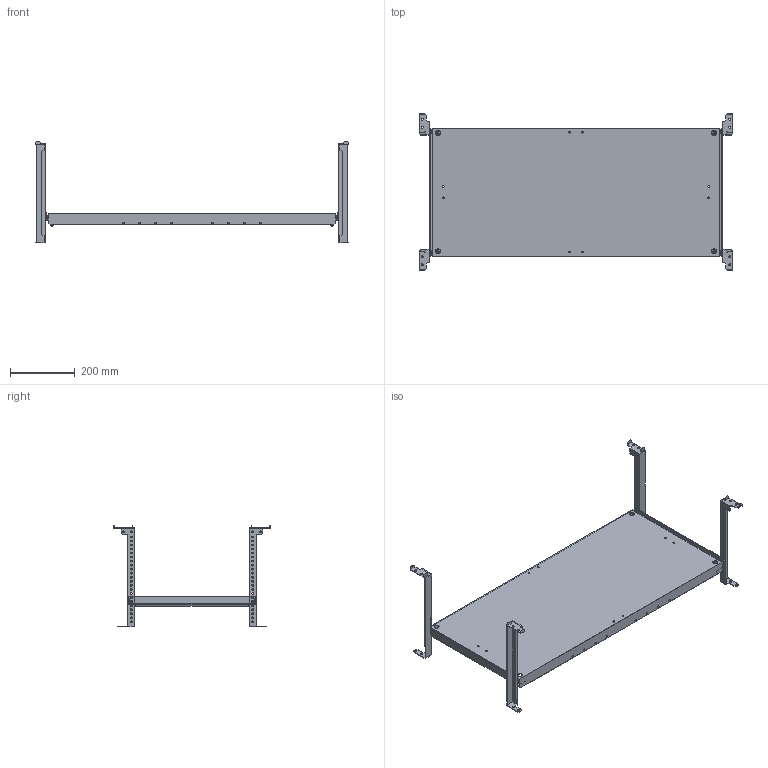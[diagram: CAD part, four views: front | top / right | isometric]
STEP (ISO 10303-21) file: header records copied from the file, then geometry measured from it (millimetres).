
FILE_DESCRIPTION (( 'STEP AP214' ), '1' );
FILE_NAME ('FO-00-MPU-040-100 Ïàíåëü ìîíòàæíàÿ óíèâåðñàëüíàÿ 400õ1000 ìì.STEP', '2025-07-16T08:32:49', ( '' ), ( '' ), 'SwSTEP 2.0', 'SolidWorks 2023', '' );
FILE_SCHEMA (( 'AUTOMOTIVE_DESIGN' ));
Length unit declared in the file: millimetre
Products named in the file (5): Траверса горизонтальнаяD; Панель монтажная универсальная 400х1000 мм; FO-00-MPU-040-100 Панель монтажная универсальная 400х1000 мм; Траверса горизонтальная; Винты DIN 912 4xM6x20 400x1000
Assembly tree (6 placements, depth 2):
  FO-00-MPU-040-100 Панель монтажная универсальная 400х1000 мм
    Винты DIN 912 4xM6x20 400x1000
    Панель монтажная универсальная 400х1000 мм
    Траверса горизонтальная  x2
    Траверса горизонтальнаяD  x2
Bounding box: 966 x 485 x 314.5 mm (x, y, z)
Volume: 1168841.2 mm3; surface area: 1189737.1 mm2
Topology: 9 solids, 13 shells, 994 faces, 2754 edges, 1834 vertices
Faces by surface type: cylinder 460, plane 442, cone 60, bspline 32
Entity records: 28669 total; most frequent: CARTESIAN_POINT 8365, DIRECTION 4180, ORIENTED_EDGE 4176, EDGE_CURVE 2088, AXIS2_PLACEMENT_3D 1519, VERTEX_POINT 1390, VECTOR 1142, LINE 1142
